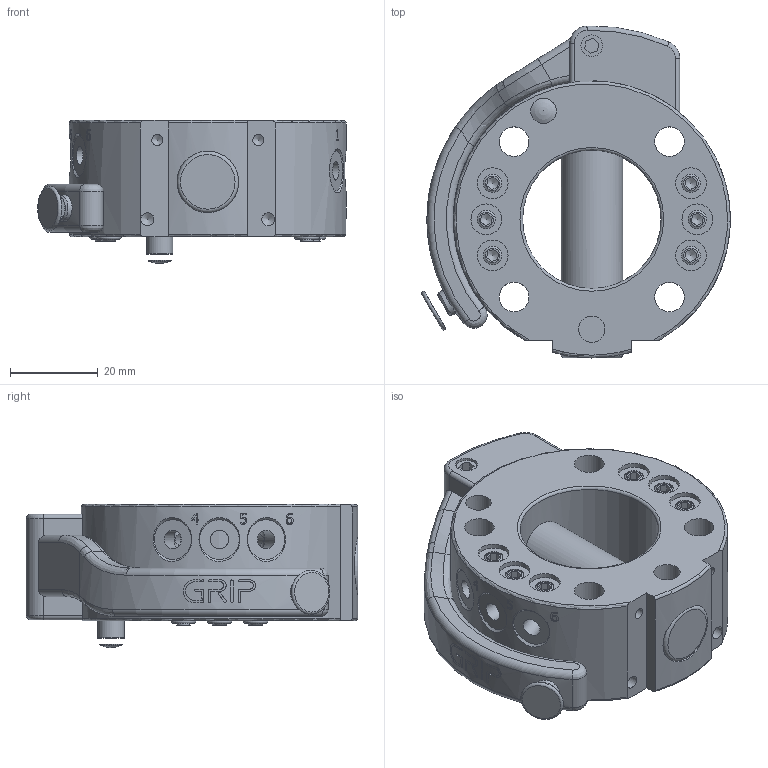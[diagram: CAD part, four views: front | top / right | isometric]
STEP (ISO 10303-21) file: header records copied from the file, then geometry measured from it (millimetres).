
FILE_DESCRIPTION(/* description */ ('','CAx-IF Rec.Pracs.---Representation and Presentation of Product Manufacturing Information (PMI)---4.0---2014-10-13'),/* implementation_level */ '2;1');
FILE_NAME(/* name */ 'G-SHS063-O-K050-6P_Rev.1.01.stp',/* time_stamp */ '2025-05-21T09:16:18+02:00',/* author */ ('mbecker'),/* organization */ (''),/* preprocessor_version */ 'ST-DEVELOPER v20',/* originating_system */ 'Autodesk Inventor 2024',/* authorisation */ '');
FILE_SCHEMA (('AP242_MANAGED_MODEL_BASED_3D_ENGINEERING_MIM_LF { 1 0 10303 442 1 1 4 }'));
Length unit declared in the file: millimetre
Products named in the file (1): G-SHS063-O-K050-6P_Rev.1.01
Bounding box: 70.19 x 75.49 x 32.6 mm (x, y, z)
Volume: 69183.3 mm3; surface area: 23341 mm2
Topology: 1 solids, 11 shells, 529 faces, 1315 edges, 857 vertices
Faces by surface type: plane 206, cylinder 124, bspline 99, cone 62, torus 36, sphere 2
Full cylindrical faces by diameter (mm): 2.5 x2, 2.8 x6, 3 x2, 3.5 x1, 4 x6, 4.1 x1, 4.2 x30, 4.917 x4, 5.8 x1, 6 x3, 6.5 x12, 6.75 x4, 7 x6, 11 x4, 14 x3, 31.5 x1
Entity records: 19741 total; most frequent: CARTESIAN_POINT 6919, ORIENTED_EDGE 2592, DIRECTION 2370, EDGE_CURVE 1296, AXIS2_PLACEMENT_3D 917, VERTEX_POINT 857, EDGE_LOOP 637, LINE 536
